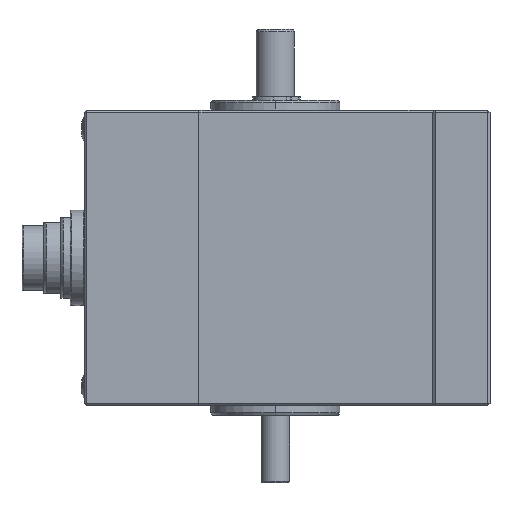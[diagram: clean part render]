
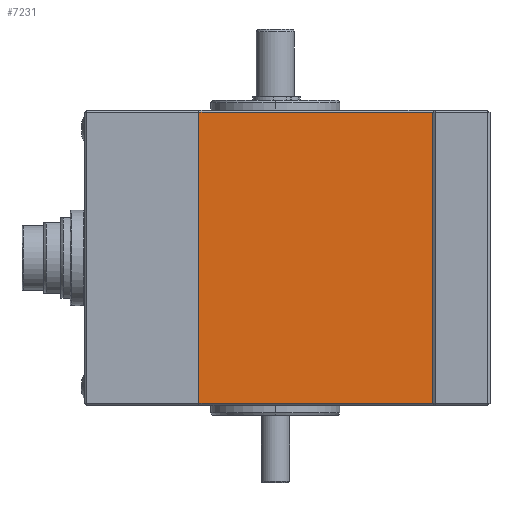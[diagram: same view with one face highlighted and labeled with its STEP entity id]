
A CAD part, left-side view. The second image highlights one B-rep face of the part: STEP entity #7231.
In plain terms, the highlighted planar face has unit normal (-1, 0, 0).
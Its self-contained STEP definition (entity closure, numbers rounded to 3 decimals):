
#275 = DIRECTION ( 'NONE',  ( 0., 0., -1. ) ) ;
#2541 = ORIENTED_EDGE ( 'NONE', *, *, #4469, .T. ) ;
#3259 = VERTEX_POINT ( 'NONE', #6710 ) ;
#3295 = CARTESIAN_POINT ( 'NONE',  ( -14., 16., 0.5 ) ) ;
#3512 = CARTESIAN_POINT ( 'NONE',  ( -14., -33., 0.5 ) ) ;
#4373 = CARTESIAN_POINT ( 'NONE',  ( -14., 16., 61.5 ) ) ;
#4469 = EDGE_CURVE ( 'NONE', #4585, #13970, #14581, .T. ) ;
#4585 = VERTEX_POINT ( 'NONE', #3295 ) ;
#4690 = ORIENTED_EDGE ( 'NONE', *, *, #14553, .T. ) ;
#5239 = VERTEX_POINT ( 'NONE', #4373 ) ;
#5298 = CARTESIAN_POINT ( 'NONE',  ( -14., 16., 64. ) ) ;
#5746 = LINE ( 'NONE', #15609, #14253 ) ;
#5767 = VECTOR ( 'NONE', #13977, 1000. ) ;
#5799 = EDGE_CURVE ( 'NONE', #3259, #5239, #5746, .T. ) ;
#5852 = EDGE_LOOP ( 'NONE', ( #4690, #7833, #14272, #2541 ) ) ;
#6710 = CARTESIAN_POINT ( 'NONE',  ( -14., -33., 61.5 ) ) ;
#7231 = ADVANCED_FACE ( 'NONE', ( #10590 ), #15503, .F. ) ;
#7833 = ORIENTED_EDGE ( 'NONE', *, *, #5799, .T. ) ;
#7834 = LINE ( 'NONE', #5298, #12354 ) ;
#8250 = LINE ( 'NONE', #8409, #9107 ) ;
#8409 = CARTESIAN_POINT ( 'NONE',  ( -14., -33., 64. ) ) ;
#8571 = DIRECTION ( 'NONE',  ( 1., 0., 0. ) ) ;
#8892 = CARTESIAN_POINT ( 'NONE',  ( -14., -33., 0.5 ) ) ;
#9107 = VECTOR ( 'NONE', #11862, 1000. ) ;
#9753 = EDGE_CURVE ( 'NONE', #5239, #4585, #7834, .T. ) ;
#9873 = DIRECTION ( 'NONE',  ( 0., 0., -1. ) ) ;
#10590 = FACE_OUTER_BOUND ( 'NONE', #5852, .T. ) ;
#11862 = DIRECTION ( 'NONE',  ( 0., 0., 1. ) ) ;
#12354 = VECTOR ( 'NONE', #275, 1000. ) ;
#13567 = AXIS2_PLACEMENT_3D ( 'NONE', #15914, #8571, #9873 ) ;
#13970 = VERTEX_POINT ( 'NONE', #8892 ) ;
#13977 = DIRECTION ( 'NONE',  ( 0., -1., 0. ) ) ;
#14253 = VECTOR ( 'NONE', #15861, 1000. ) ;
#14272 = ORIENTED_EDGE ( 'NONE', *, *, #9753, .T. ) ;
#14553 = EDGE_CURVE ( 'NONE', #13970, #3259, #8250, .T. ) ;
#14581 = LINE ( 'NONE', #3512, #5767 ) ;
#15503 = PLANE ( 'NONE',  #13567 ) ;
#15609 = CARTESIAN_POINT ( 'NONE',  ( -14., 16., 61.5 ) ) ;
#15861 = DIRECTION ( 'NONE',  ( 0., 1., 0. ) ) ;
#15914 = CARTESIAN_POINT ( 'NONE',  ( -14., -14., 64. ) ) ;
